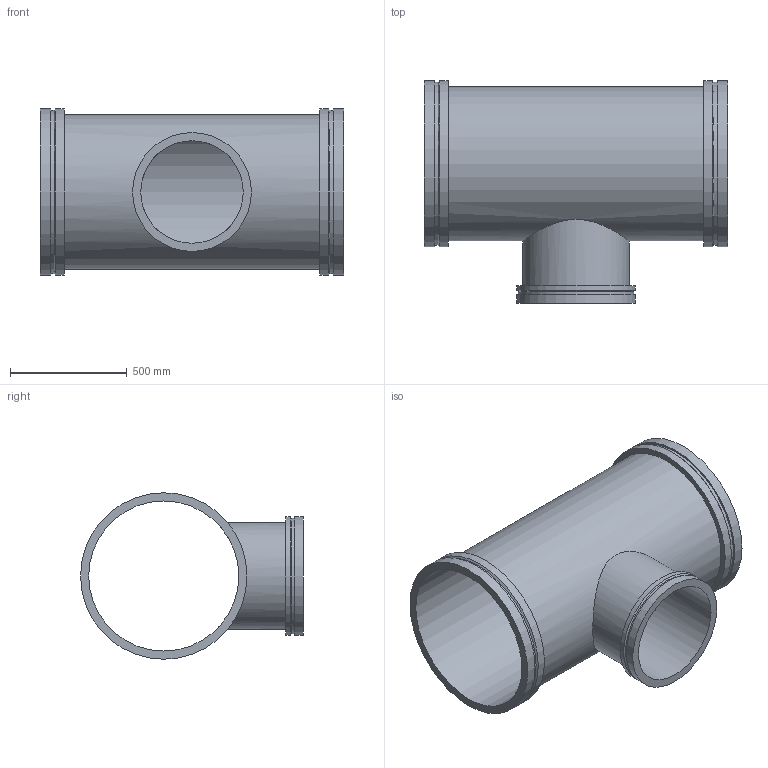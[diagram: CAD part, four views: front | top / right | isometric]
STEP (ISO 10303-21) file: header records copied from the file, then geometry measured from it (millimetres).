
FILE_DESCRIPTION(/* description */ ('VIC REDUCING TEE No W025 VR','CAx-IF Rec.Pracs.---Representation and Presentation of Product Manufacturing Information (PMI)---4.0---2014-10-13'),/* implementation_level */ '2;1');
FILE_NAME(/* name */ 'C:\Users\kkamble\AppData\Roaming\Autodesk\ApplicationPlugins\Back Up\Victaulic_Vic-Ring_Tee Reducing_No W25 VR (AGR)\Victaulic_Vic-Ring_Tee Reducing_No W25 VR (AGR)_26.0x18.0 (650x450).stp',/* time_stamp */ '2020-09-10T11:53:29+05:00',/* author */ ('mchristi'),/* organization */ ('Victaulic'),/* preprocessor_version */ 'ST-DEVELOPER v17.2',/* originating_system */ 'Autodesk Inventor 2019',/* authorisation */ '');
FILE_SCHEMA (('AP242_MANAGED_MODEL_BASED_3D_ENGINEERING_MIM_LF { 1 0 10303 442 1 1 4 }'));
Length unit declared in the file: inch
Products named in the file (1): W25 VR-26.0x18.0
Bounding box: 1295.4 x 952.5 x 711.2 mm (x, y, z)
Volume: 41222292 mm3; surface area: 6295857.6 mm2
Topology: 1 solids, 1 shells, 25 faces, 68 edges, 52 vertices
Faces by surface type: cylinder 13, plane 9, cone 3
Full cylindrical faces by diameter (mm): 438.15 x1, 457.2 x1, 495.3 x1, 508 x2, 641.35 x1, 660.4 x1, 696.722 x2, 711.2 x4
Entity records: 1227 total; most frequent: CARTESIAN_POINT 383, DIRECTION 190, ORIENTED_EDGE 136, AXIS2_PLACEMENT_3D 87, EDGE_CURVE 68, VERTEX_POINT 52, CIRCLE 48, EDGE_LOOP 36
